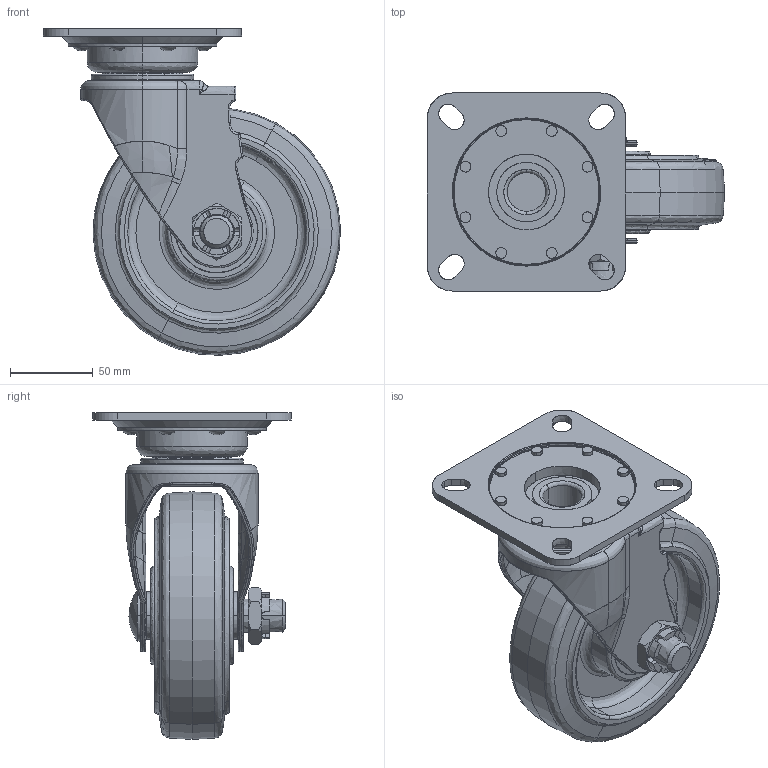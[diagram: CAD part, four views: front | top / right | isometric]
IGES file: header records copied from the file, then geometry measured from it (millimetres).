
Start section: START RECORD GO HERE.
Global section: file name: TRS-150AWJ.igs; native system: DASSAULT SYSTEMES CATIA Version 5-6 Release 2012 - www.3ds.com; preprocessor: V5-6R2012_5.22.4.28.09-04-2013.16.24; author: toshihiro.oyama; organization: ICC; date: 20140712.170510; units: millimetre
Bounding box: 179.98 x 120 x 197.98 mm (x, y, z)
Surface area: 269116.7 mm2 (no closed solid volume)
Topology: 0 solids, 0 shells, 936 faces, 4607 edges, 4421 vertices
Faces by surface type: revolution 426, plane 267, bspline 237, extrusion 6
